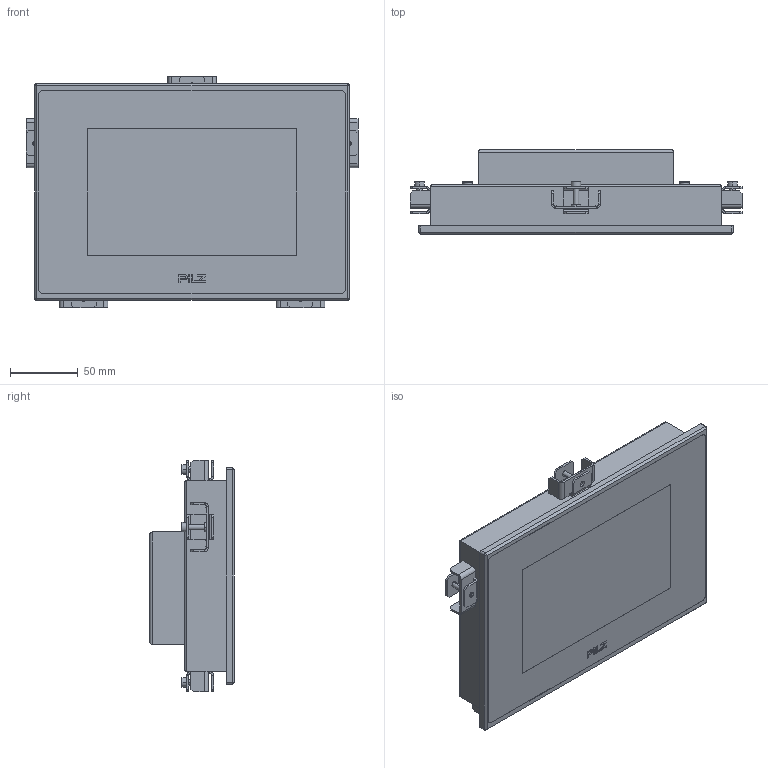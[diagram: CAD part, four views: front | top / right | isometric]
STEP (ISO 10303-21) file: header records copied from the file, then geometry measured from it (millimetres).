
FILE_DESCRIPTION((''),'2;1');
FILE_NAME('2022944_ASM','2016-06-17T',('rink'),(''),'PRO/ENGINEER BY PARAMETRIC TECHNOLOGY CORPORATION, 2015110','PRO/ENGINEER BY PARAMETRIC TECHNOLOGY CORPORATION, 2015110','');
FILE_SCHEMA(('AUTOMOTIVE_DESIGN { 1 0 10303 214 1 1 1 1 }'));
Length unit declared in the file: millimetre
Products named in the file (6): 2022943; 2007993; 2007991; 2000431; 2011570_ASM; 2022944_ASM
Assembly tree (9 placements, depth 3):
  2022944_ASM
    2022943
    2011570_ASM  x5
      2007993
      2007991
      2000431
Bounding box: 245 x 62.5 x 171 mm (x, y, z)
Volume: 1471586.9 mm3; surface area: 133451.5 mm2
Topology: 21 solids, 26 shells, 620 faces, 1431 edges, 898 vertices
Faces by surface type: plane 428, cylinder 158, torus 20, cone 14
Entity records: 8509 total; most frequent: CARTESIAN_POINT 1082, DIRECTION 983, ORIENTED_EDGE 876, PRESENTATION_STYLE_ASSIGNMENT 472, STYLED_ITEM 470, CURVE_STYLE 464, EDGE_CURVE 440, VECTOR 359
